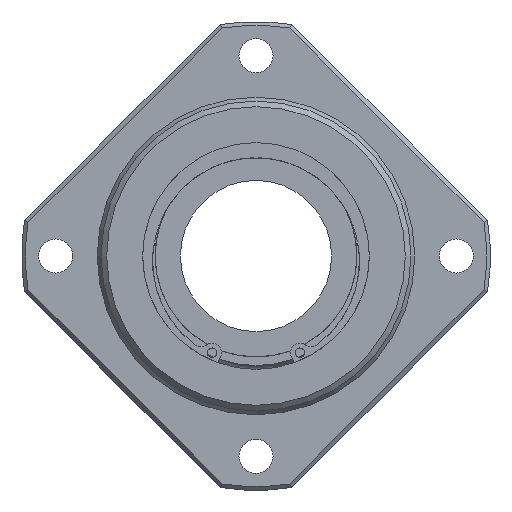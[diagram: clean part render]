
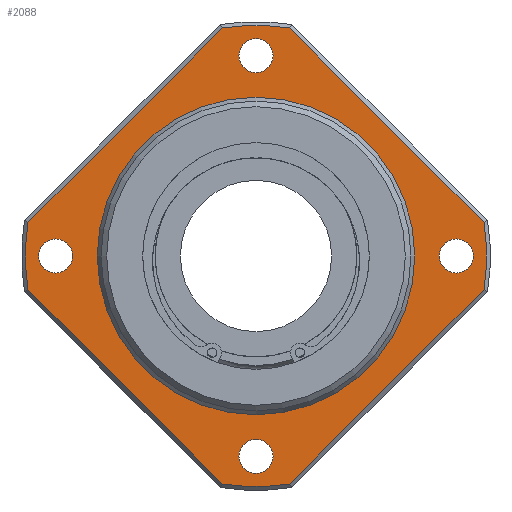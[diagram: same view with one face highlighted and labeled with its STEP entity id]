
A CAD part, left-side view. The second image highlights one B-rep face of the part: STEP entity #2088.
In plain terms, the highlighted planar face has unit normal (-1, 0, 0).
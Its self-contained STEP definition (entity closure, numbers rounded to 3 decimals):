
#1775=CARTESIAN_POINT('',(186.0,-8.958,-60.339));
#1776=VERTEX_POINT('',#1775);
#1784=CARTESIAN_POINT('',(186.0,8.958,-60.339));
#1785=VERTEX_POINT('',#1784);
#1786=CARTESIAN_POINT('',(186.0,0.0,0.0));
#1787=DIRECTION('',(1.0,0.0,0.0));
#1788=DIRECTION('',(0.0,0.0,-1.0));
#1789=AXIS2_PLACEMENT_3D('',#1786,#1787,#1788);
#1790=CIRCLE('',#1789,61.);
#1791=EDGE_CURVE('',#1776,#1785,#1790,.T.);
#1810=CARTESIAN_POINT('',(186.0,60.339,-8.958));
#1811=VERTEX_POINT('',#1810);
#1812=CARTESIAN_POINT('',(186.0,8.958,-60.339));
#1813=DIRECTION('',(0.0,0.707,0.707));
#1814=VECTOR('',#1813,72.664);
#1815=LINE('',#1812,#1814);
#1816=EDGE_CURVE('',#1785,#1811,#1815,.T.);
#1843=CARTESIAN_POINT('',(186.0,60.339,8.958));
#1844=VERTEX_POINT('',#1843);
#1845=CARTESIAN_POINT('',(186.0,0.0,0.0));
#1846=DIRECTION('',(1.0,0.0,0.0));
#1847=DIRECTION('',(0.0,0.0,1.0));
#1848=AXIS2_PLACEMENT_3D('',#1845,#1846,#1847);
#1849=CIRCLE('',#1848,61.);
#1850=EDGE_CURVE('',#1811,#1844,#1849,.T.);
#1876=CARTESIAN_POINT('',(186.0,8.958,60.339));
#1877=VERTEX_POINT('',#1876);
#1878=CARTESIAN_POINT('',(186.0,60.339,8.958));
#1879=DIRECTION('',(0.0,-0.707,0.707));
#1880=VECTOR('',#1879,72.664);
#1881=LINE('',#1878,#1880);
#1882=EDGE_CURVE('',#1844,#1877,#1881,.T.);
#1909=CARTESIAN_POINT('',(186.0,-8.958,60.339));
#1910=VERTEX_POINT('',#1909);
#1911=CARTESIAN_POINT('',(186.0,0.0,0.0));
#1912=DIRECTION('',(1.0,0.0,0.0));
#1913=DIRECTION('',(0.0,0.0,1.0));
#1914=AXIS2_PLACEMENT_3D('',#1911,#1912,#1913);
#1915=CIRCLE('',#1914,61.);
#1916=EDGE_CURVE('',#1877,#1910,#1915,.T.);
#1940=CARTESIAN_POINT('',(186.0,-60.339,8.958));
#1941=VERTEX_POINT('',#1940);
#1942=CARTESIAN_POINT('',(186.0,-8.958,60.339));
#1943=DIRECTION('',(0.0,-0.707,-0.707));
#1944=VECTOR('',#1943,72.664);
#1945=LINE('',#1942,#1944);
#1946=EDGE_CURVE('',#1910,#1941,#1945,.T.);
#1965=CARTESIAN_POINT('',(186.0,-60.339,-8.958));
#1966=VERTEX_POINT('',#1965);
#1967=CARTESIAN_POINT('',(186.0,0.0,0.0));
#1968=DIRECTION('',(1.0,0.0,0.0));
#1969=DIRECTION('',(0.0,0.0,1.0));
#1970=AXIS2_PLACEMENT_3D('',#1967,#1968,#1969);
#1971=CIRCLE('',#1970,61.);
#1972=EDGE_CURVE('',#1941,#1966,#1971,.T.);
#1991=CARTESIAN_POINT('',(186.0,-60.339,-8.958));
#1992=DIRECTION('',(0.0,0.707,-0.707));
#1993=VECTOR('',#1992,72.664);
#1994=LINE('',#1991,#1993);
#1995=EDGE_CURVE('',#1966,#1776,#1994,.T.);
#2018=CARTESIAN_POINT('',(186.0,0.0,52.));
#2019=DIRECTION('',(-1.0,0.0,0.0));
#2020=DIRECTION('',(0.0,0.0,1.0));
#2021=AXIS2_PLACEMENT_3D('',#2018,#2019,#2020);
#2022=PLANE('',#2021);
#2023=ORIENTED_EDGE('',*,*,#1791,.F.);
#2024=ORIENTED_EDGE('',*,*,#1995,.F.);
#2025=ORIENTED_EDGE('',*,*,#1972,.F.);
#2026=ORIENTED_EDGE('',*,*,#1946,.F.);
#2027=ORIENTED_EDGE('',*,*,#1916,.F.);
#2028=ORIENTED_EDGE('',*,*,#1882,.F.);
#2029=ORIENTED_EDGE('',*,*,#1850,.F.);
#2030=ORIENTED_EDGE('',*,*,#1816,.F.);
#2031=EDGE_LOOP('',(#2023,#2024,#2025,#2026,#2027,#2028,#2029,#2030));
#2032=FACE_OUTER_BOUND('',#2031,.T.);
#2033=CARTESIAN_POINT('',(186.0,0.0,42.));
#2034=VERTEX_POINT('',#2033);
#2035=CARTESIAN_POINT('',(186.0,0.0,0.0));
#2036=DIRECTION('',(-1.0,0.0,0.0));
#2037=DIRECTION('',(0.0,0.0,1.0));
#2038=AXIS2_PLACEMENT_3D('',#2035,#2036,#2037);
#2039=CIRCLE('',#2038,42.);
#2040=EDGE_CURVE('',#2034,#2034,#2039,.T.);
#2041=ORIENTED_EDGE('',*,*,#2040,.F.);
#2042=EDGE_LOOP('',(#2041));
#2043=FACE_BOUND('',#2042,.T.);
#2044=CARTESIAN_POINT('',(186.0,4.5,53.));
#2045=VERTEX_POINT('',#2044);
#2046=CARTESIAN_POINT('',(186.0,0.,53.));
#2047=DIRECTION('',(1.0,0.0,0.0));
#2048=DIRECTION('',(0.0,1.0,0.0));
#2049=AXIS2_PLACEMENT_3D('',#2046,#2047,#2048);
#2050=CIRCLE('',#2049,4.5);
#2051=EDGE_CURVE('',#2045,#2045,#2050,.T.);
#2052=ORIENTED_EDGE('',*,*,#2051,.T.);
#2053=EDGE_LOOP('',(#2052));
#2054=FACE_BOUND('',#2053,.T.);
#2055=CARTESIAN_POINT('',(186.0,-53.,4.5));
#2056=VERTEX_POINT('',#2055);
#2057=CARTESIAN_POINT('',(186.0,-53.,0.));
#2058=DIRECTION('',(1.0,0.0,0.0));
#2059=DIRECTION('',(0.0,0.0,1.0));
#2060=AXIS2_PLACEMENT_3D('',#2057,#2058,#2059);
#2061=CIRCLE('',#2060,4.5);
#2062=EDGE_CURVE('',#2056,#2056,#2061,.T.);
#2063=ORIENTED_EDGE('',*,*,#2062,.T.);
#2064=EDGE_LOOP('',(#2063));
#2065=FACE_BOUND('',#2064,.T.);
#2066=CARTESIAN_POINT('',(186.0,-4.5,-53.));
#2067=VERTEX_POINT('',#2066);
#2068=CARTESIAN_POINT('',(186.0,0.,-53.));
#2069=DIRECTION('',(1.0,0.0,0.0));
#2070=DIRECTION('',(0.0,-1.0,0.0));
#2071=AXIS2_PLACEMENT_3D('',#2068,#2069,#2070);
#2072=CIRCLE('',#2071,4.5);
#2073=EDGE_CURVE('',#2067,#2067,#2072,.T.);
#2074=ORIENTED_EDGE('',*,*,#2073,.T.);
#2075=EDGE_LOOP('',(#2074));
#2076=FACE_BOUND('',#2075,.T.);
#2077=CARTESIAN_POINT('',(186.0,53.,-4.5));
#2078=VERTEX_POINT('',#2077);
#2079=CARTESIAN_POINT('',(186.0,53.,0.));
#2080=DIRECTION('',(1.0,0.0,0.0));
#2081=DIRECTION('',(0.0,0.0,-1.0));
#2082=AXIS2_PLACEMENT_3D('',#2079,#2080,#2081);
#2083=CIRCLE('',#2082,4.5);
#2084=EDGE_CURVE('',#2078,#2078,#2083,.T.);
#2085=ORIENTED_EDGE('',*,*,#2084,.T.);
#2086=EDGE_LOOP('',(#2085));
#2087=FACE_BOUND('',#2086,.T.);
#2088=ADVANCED_FACE('',(#2032,#2043,#2054,#2065,#2076,#2087),#2022,.T.);
